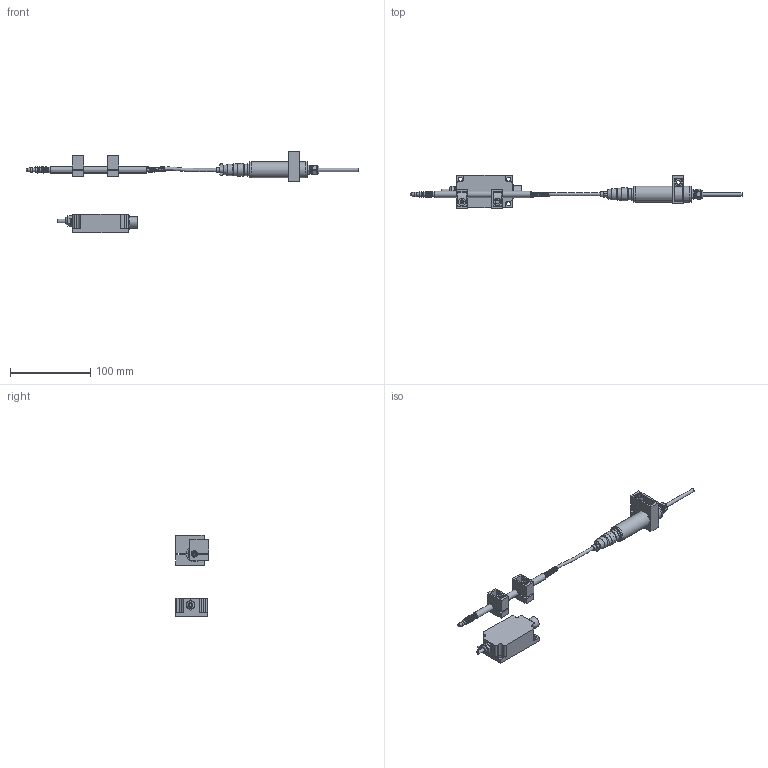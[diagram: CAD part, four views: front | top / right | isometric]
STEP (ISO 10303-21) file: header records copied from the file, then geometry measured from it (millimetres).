
FILE_DESCRIPTION(/* description */ (''),/* implementation_level */ '2;1');
FILE_NAME(/* name */ 'LVDT-8-v2-10MM-DL-A.stp',/* time_stamp */ '2020-08-17T10:47:52+08:00',/* author */ (''),/* organization */ (''),/* preprocessor_version */ 'ST-DEVELOPER v16',/* originating_system */ 'SIEMENS PLM Software NX 10.0',/* authorisation */ '');
FILE_SCHEMA (('CONFIG_CONTROL_DESIGN'));
Length unit declared in the file: millimetre
Products named in the file (1): LVDT-8-2019-9
Bounding box: 414.17 x 41.46 x 102.07 mm (x, y, z)
Volume: 80467.1 mm3; surface area: 54302 mm2
Topology: 14 solids, 15 shells, 369 faces, 877 edges, 575 vertices
Faces by surface type: plane 195, cylinder 110, cone 28, bspline 18, torus 17, sphere 1
Full cylindrical faces by diameter (mm): 4 x1, 4.2 x2, 5 x10, 5.5 x2, 5.6 x2, 6 x2, 6.5 x1, 8 x5, 8.5 x9, 10 x3, 10.5 x1, 11 x1, 13 x1, 14 x4, 15 x1, 15.5 x1, 16 x1, 16.6 x1, 20 x3
Entity records: 20945 total; most frequent: CARTESIAN_POINT 13103, DIRECTION 1547, ORIENTED_EDGE 1468, EDGE_CURVE 734, AXIS2_PLACEMENT_3D 569, VERTEX_POINT 530, EDGE_LOOP 508, LINE 409
